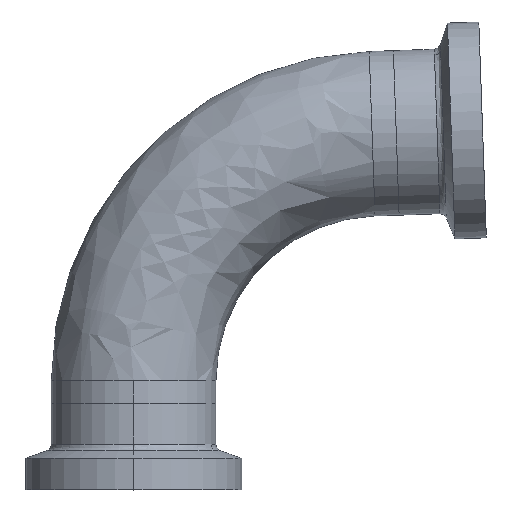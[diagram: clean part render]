
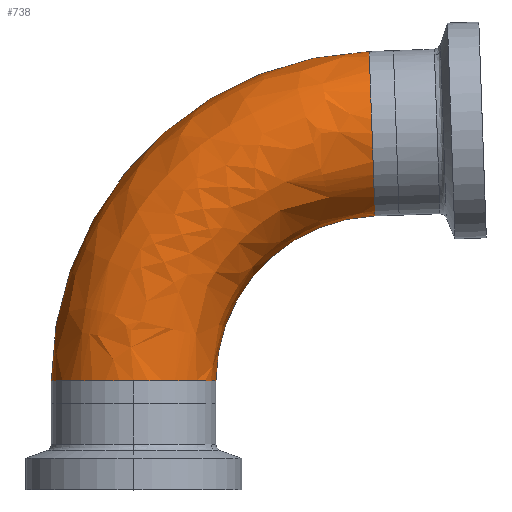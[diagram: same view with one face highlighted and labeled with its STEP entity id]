
A CAD part, top view. The second image highlights one B-rep face of the part: STEP entity #738.
In plain terms, the highlighted free-form (B-spline) face has degree [3, 3] with [4, 4] control points.
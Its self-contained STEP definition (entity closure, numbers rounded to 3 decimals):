
#15 = EDGE_CURVE ( 'NONE', #183, #2031, #352, .T. ) ;
#16 = VERTEX_POINT ( 'NONE', #1795 ) ;
#79 = CIRCLE ( 'NONE', #390, 9.525 ) ;
#98 = CARTESIAN_POINT ( 'NONE',  ( 27.602, 31.213, 0. ) ) ;
#116 = DIRECTION ( 'NONE',  ( -0.035, 0.999, 0. ) ) ;
#125 = DIRECTION ( 'NONE',  ( -0.999, -0.035, 0. ) ) ;
#183 = VERTEX_POINT ( 'NONE', #642 ) ;
#204 = EDGE_CURVE ( 'NONE', #1059, #1113, #79, .T. ) ;
#304 = CIRCLE ( 'NONE', #1136, 9.525 ) ;
#307 = ORIENTED_EDGE ( 'NONE', *, *, #15, .T. ) ;
#352 = CIRCLE ( 'NONE', #551, 9.525 ) ;
#390 = AXIS2_PLACEMENT_3D ( 'NONE', #98, #125, #116 ) ;
#393 = CARTESIAN_POINT ( 'NONE',  ( 0., 2.631, 0. ) ) ;
#418 = CARTESIAN_POINT ( 'NONE',  ( 28.6, 2.631, 0. ) ) ;
#451 = CARTESIAN_POINT ( 'NONE',  ( 28.6, 2.631, 0. ) ) ;
#474 = DIRECTION ( 'NONE',  ( 0., 0., -1. ) ) ;
#493 = DIRECTION ( 'NONE',  ( -1., 0., 0. ) ) ;
#551 = AXIS2_PLACEMENT_3D ( 'NONE', #1182, #1650, #1640 ) ;
#569 = DIRECTION ( 'NONE',  ( -1., 0., 0. ) ) ;
#642 = CARTESIAN_POINT ( 'NONE',  ( 0., 2.631, 9.525 ) ) ;
#655 = EDGE_CURVE ( 'NONE', #16, #1113, #1464, .T. ) ;
#673 = ORIENTED_EDGE ( 'NONE', *, *, #1339, .T. ) ;
#690 = DIRECTION ( 'NONE',  ( 0., 0., -1. ) ) ;
#696 = ORIENTED_EDGE ( 'NONE', *, *, #655, .F. ) ;
#738 = ADVANCED_FACE ( 'NONE', ( #2047 ), #1609, .T. ) ;
#755 = AXIS2_PLACEMENT_3D ( 'NONE', #451, #474, #493 ) ;
#880 = ORIENTED_EDGE ( 'NONE', *, *, #1905, .T. ) ;
#884 = CARTESIAN_POINT ( 'NONE',  ( 5.563, 39.975, 0. ) ) ;
#952 = CARTESIAN_POINT ( 'NONE',  ( -9.525, 24.351, 0. ) ) ;
#1059 = VERTEX_POINT ( 'NONE', #1817 ) ;
#1076 = CARTESIAN_POINT ( 'NONE',  ( -9.525, 2.631, 0. ) ) ;
#1104 = CARTESIAN_POINT ( 'NONE',  ( 27.269, 40.733, 0. ) ) ;
#1113 = VERTEX_POINT ( 'NONE', #1240 ) ;
#1122 = CARTESIAN_POINT ( 'NONE',  ( -9.525, 2.631, 19.05 ) ) ;
#1136 = AXIS2_PLACEMENT_3D ( 'NONE', #393, #1500, #569 ) ;
#1182 = CARTESIAN_POINT ( 'NONE',  ( 0., 2.631, 0. ) ) ;
#1198 = CARTESIAN_POINT ( 'NONE',  ( -9.525, 24.351, 19.05 ) ) ;
#1240 = CARTESIAN_POINT ( 'NONE',  ( 27.269, 40.733, 0. ) ) ;
#1251 = CARTESIAN_POINT ( 'NONE',  ( 5.563, 39.975, 19.05 ) ) ;
#1275 = CARTESIAN_POINT ( 'NONE',  ( 27.269, 40.733, 19.05 ) ) ;
#1283 = CARTESIAN_POINT ( 'NONE',  ( 9.525, 2.631, 19.05 ) ) ;
#1299 = CARTESIAN_POINT ( 'NONE',  ( 9.525, 13.498, 19.05 ) ) ;
#1325 = CARTESIAN_POINT ( 'NONE',  ( 17.074, 21.315, 19.05 ) ) ;
#1331 = CARTESIAN_POINT ( 'NONE',  ( 27.934, 21.694, 19.05 ) ) ;
#1337 = CARTESIAN_POINT ( 'NONE',  ( 9.525, 2.631, 0. ) ) ;
#1339 = EDGE_CURVE ( 'NONE', #2031, #1059, #1673, .T. ) ;
#1355 = CARTESIAN_POINT ( 'NONE',  ( 9.525, 13.498, 0. ) ) ;
#1363 = CARTESIAN_POINT ( 'NONE',  ( 17.074, 21.315, 0. ) ) ;
#1369 = CARTESIAN_POINT ( 'NONE',  ( 27.934, 21.694, 0. ) ) ;
#1464 = CIRCLE ( 'NONE', #755, 38.125 ) ;
#1500 = DIRECTION ( 'NONE',  ( 0., 1., 0. ) ) ;
#1541 = CARTESIAN_POINT ( 'NONE',  ( 9.525, 2.631, 0. ) ) ;
#1609 =( BOUNDED_SURFACE ( )  B_SPLINE_SURFACE ( 3, 3, ( 
 ( #1076, #952, #884, #1104 ),
 ( #1122, #1198, #1251, #1275 ),
 ( #1283, #1299, #1325, #1331 ),
 ( #1337, #1355, #1363, #1369 ) ),
 .UNSPECIFIED., .F., .F., .T. ) 
 B_SPLINE_SURFACE_WITH_KNOTS ( ( 4, 4 ),
 ( 4, 4 ),
 ( 0., 1. ),
 ( 0., 1. ),
 .UNSPECIFIED. ) 
 GEOMETRIC_REPRESENTATION_ITEM ( )  RATIONAL_B_SPLINE_SURFACE ( (
 ( 1., 0.813, 0.813, 1.),
 ( 0.333, 0.271, 0.271, 0.333),
 ( 0.333, 0.271, 0.271, 0.333),
 ( 1., 0.813, 0.813, 1.) ) ) 
 REPRESENTATION_ITEM ( '' )  SURFACE ( )  );
#1640 = DIRECTION ( 'NONE',  ( -1., 0., 0. ) ) ;
#1650 = DIRECTION ( 'NONE',  ( 0., 1., 0. ) ) ;
#1673 = CIRCLE ( 'NONE', #1798, 19.075 ) ;
#1722 = DIRECTION ( 'NONE',  ( -1., 0., 0. ) ) ;
#1795 = CARTESIAN_POINT ( 'NONE',  ( -9.525, 2.631, 0. ) ) ;
#1798 = AXIS2_PLACEMENT_3D ( 'NONE', #418, #690, #1722 ) ;
#1817 = CARTESIAN_POINT ( 'NONE',  ( 27.934, 21.694, 0. ) ) ;
#1905 = EDGE_CURVE ( 'NONE', #16, #183, #304, .T. ) ;
#2019 = ORIENTED_EDGE ( 'NONE', *, *, #204, .T. ) ;
#2031 = VERTEX_POINT ( 'NONE', #1541 ) ;
#2045 = EDGE_LOOP ( 'NONE', ( #307, #673, #2019, #696, #880 ) ) ;
#2047 = FACE_OUTER_BOUND ( 'NONE', #2045, .T. ) ;
